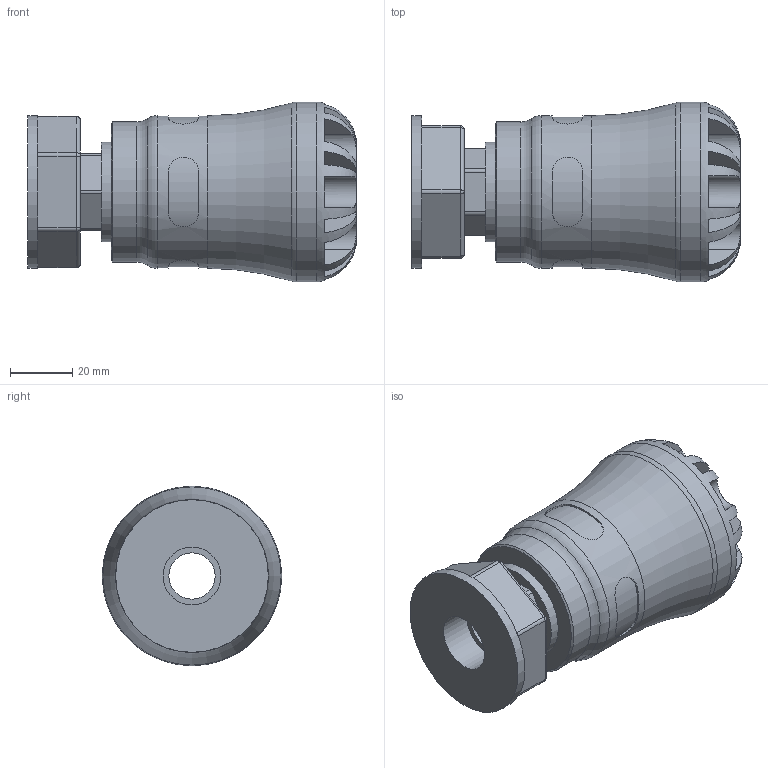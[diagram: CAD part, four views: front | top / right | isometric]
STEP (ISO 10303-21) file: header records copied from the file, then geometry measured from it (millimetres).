
FILE_DESCRIPTION(/* description */ ('PLASSON FEMALE ADAPTOR WITH FREE NUT 1''''CTS x 1'''''),/* implementation_level */ '2;1');
FILE_NAME(/* name */ 'C:\Dropbox\KIMPROJECTS-Inventor 2019\99-16-3568-Processing Inch\ASTM S1 2021\1003ZR\1003ZR010010.ipt.stp',/* time_stamp */ '2021-09-02T12:00:38+03:00',/* author */ ('KIM'),/* organization */ (''),/* preprocessor_version */ 'ST-DEVELOPER v17.2',/* originating_system */ 'Autodesk Inventor 2019',/* authorisation */ '');
FILE_SCHEMA (('AUTOMOTIVE_DESIGN { 1 0 10303 214 3 1 1 }'));
Length unit declared in the file: inch
Products named in the file (1): 1003ZR010010
Bounding box: 105.92 x 57.91 x 57.91 mm (x, y, z)
Volume: 142395.6 mm3; surface area: 34989 mm2
Topology: 2 solids, 2 shells, 152 faces, 389 edges, 252 vertices
Faces by surface type: plane 80, cylinder 58, sphere 6, torus 5, cone 3
Full cylindrical faces by diameter (mm): 14.905 x1, 17.699 x1, 18.631 x3, 23.708 x1, 28.45 x1, 32.133 x1, 45.171 x1, 49.225 x2, 57.912 x1
Entity records: 5641 total; most frequent: CARTESIAN_POINT 1702, DIRECTION 806, ORIENTED_EDGE 778, EDGE_CURVE 389, AXIS2_PLACEMENT_3D 328, VERTEX_POINT 252, CIRCLE 175, EDGE_LOOP 167
